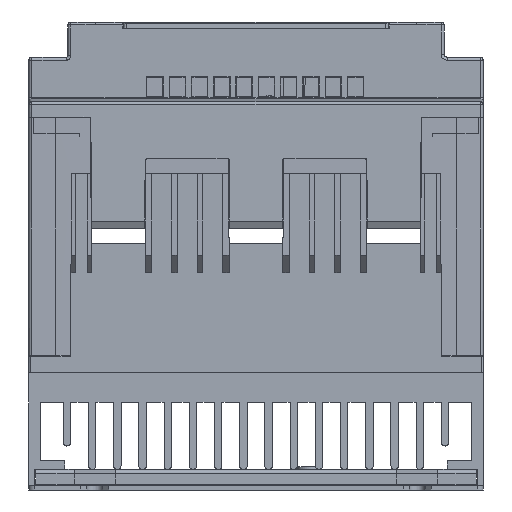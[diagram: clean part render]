
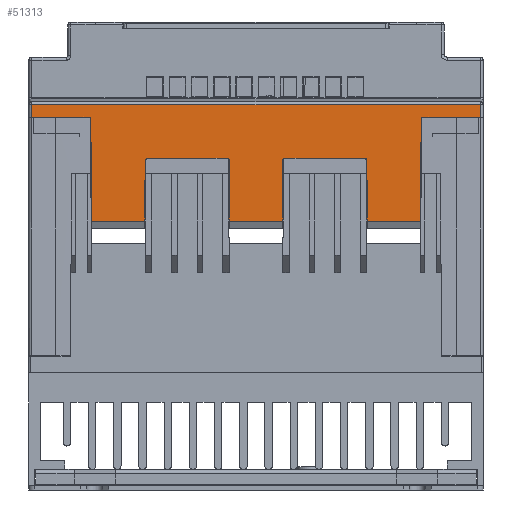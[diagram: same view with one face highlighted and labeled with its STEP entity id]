
A CAD part, front view. The second image highlights one B-rep face of the part: STEP entity #51313.
In plain terms, the highlighted planar face has unit normal (0, -1, 0.007).
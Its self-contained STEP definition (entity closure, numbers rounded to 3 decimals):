
#1725=FACE_OUTER_BOUND('',#4470,.T.);
#4470=EDGE_LOOP('',(#35972,#35973,#35974,#35975,#35976,#35977,#35978,#35979,
#35980,#35981,#35982,#35983,#35984,#35985,#35986,#35987,#35988,#35989,#35990,
#35991,#35992,#35993,#35994,#35995,#35996,#35997));
#7584=ELLIPSE('',#54462,0.5,0.5);
#7585=ELLIPSE('',#54463,0.7,0.7);
#7586=ELLIPSE('',#54464,0.7,0.7);
#7587=ELLIPSE('',#54465,0.7,0.7);
#7588=ELLIPSE('',#54466,0.7,0.7);
#7589=ELLIPSE('',#54467,0.5,0.5);
#9597=LINE('',#76469,#15493);
#9875=LINE('',#77116,#15771);
#9880=LINE('',#77127,#15776);
#9881=LINE('',#77129,#15777);
#9882=LINE('',#77131,#15778);
#9883=LINE('',#77133,#15779);
#9884=LINE('',#77135,#15780);
#9885=LINE('',#77136,#15781);
#9886=LINE('',#77140,#15782);
#9887=LINE('',#77142,#15783);
#9888=LINE('',#77144,#15784);
#9889=LINE('',#77148,#15785);
#9890=LINE('',#77152,#15786);
#9891=LINE('',#77154,#15787);
#9892=LINE('',#77156,#15788);
#9893=LINE('',#77160,#15789);
#9894=LINE('',#77164,#15790);
#9895=LINE('',#77166,#15791);
#9896=LINE('',#77168,#15792);
#9897=LINE('',#77171,#15793);
#15493=VECTOR('',#60974,10.);
#15771=VECTOR('',#61556,11.584);
#15776=VECTOR('',#61565,7.991);
#15777=VECTOR('',#61566,4.54);
#15778=VECTOR('',#61567,153.);
#15779=VECTOR('',#61568,4.54);
#15780=VECTOR('',#61569,7.991);
#15781=VECTOR('',#61570,11.584);
#15782=VECTOR('',#61573,34.576);
#15783=VECTOR('',#61574,18.225);
#15784=VECTOR('',#61575,20.719);
#15785=VECTOR('',#61578,27.297);
#15786=VECTOR('',#61581,20.719);
#15787=VECTOR('',#61582,18.122);
#15788=VECTOR('',#61583,20.719);
#15789=VECTOR('',#61586,27.297);
#15790=VECTOR('',#61589,20.719);
#15791=VECTOR('',#61590,18.225);
#15792=VECTOR('',#61591,34.576);
#15793=VECTOR('',#61594,10.);
#21448=VERTEX_POINT('',#76466);
#21449=VERTEX_POINT('',#76468);
#21665=VERTEX_POINT('',#77114);
#21666=VERTEX_POINT('',#77115);
#21670=VERTEX_POINT('',#77126);
#21671=VERTEX_POINT('',#77128);
#21672=VERTEX_POINT('',#77130);
#21673=VERTEX_POINT('',#77132);
#21674=VERTEX_POINT('',#77134);
#21675=VERTEX_POINT('',#77137);
#21676=VERTEX_POINT('',#77139);
#21677=VERTEX_POINT('',#77141);
#21678=VERTEX_POINT('',#77143);
#21679=VERTEX_POINT('',#77145);
#21680=VERTEX_POINT('',#77147);
#21681=VERTEX_POINT('',#77149);
#21682=VERTEX_POINT('',#77151);
#21683=VERTEX_POINT('',#77153);
#21684=VERTEX_POINT('',#77155);
#21685=VERTEX_POINT('',#77157);
#21686=VERTEX_POINT('',#77159);
#21687=VERTEX_POINT('',#77161);
#21688=VERTEX_POINT('',#77163);
#21689=VERTEX_POINT('',#77165);
#21690=VERTEX_POINT('',#77167);
#21691=VERTEX_POINT('',#77169);
#26708=EDGE_CURVE('',#21449,#21448,#9597,.T.);
#27034=EDGE_CURVE('',#21665,#21666,#9875,.T.);
#27040=EDGE_CURVE('',#21666,#21670,#9880,.T.);
#27041=EDGE_CURVE('',#21671,#21670,#9881,.T.);
#27042=EDGE_CURVE('',#21672,#21671,#9882,.T.);
#27043=EDGE_CURVE('',#21673,#21672,#9883,.T.);
#27044=EDGE_CURVE('',#21674,#21673,#9884,.T.);
#27045=EDGE_CURVE('',#21449,#21674,#9885,.T.);
#27046=EDGE_CURVE('',#21675,#21448,#7584,.T.);
#27047=EDGE_CURVE('',#21676,#21675,#9886,.T.);
#27048=EDGE_CURVE('',#21676,#21677,#9887,.T.);
#27049=EDGE_CURVE('',#21677,#21678,#9888,.T.);
#27050=EDGE_CURVE('',#21679,#21678,#7585,.T.);
#27051=EDGE_CURVE('',#21679,#21680,#9889,.T.);
#27052=EDGE_CURVE('',#21681,#21680,#7586,.T.);
#27053=EDGE_CURVE('',#21682,#21681,#9890,.T.);
#27054=EDGE_CURVE('',#21682,#21683,#9891,.T.);
#27055=EDGE_CURVE('',#21683,#21684,#9892,.T.);
#27056=EDGE_CURVE('',#21685,#21684,#7587,.T.);
#27057=EDGE_CURVE('',#21685,#21686,#9893,.T.);
#27058=EDGE_CURVE('',#21687,#21686,#7588,.T.);
#27059=EDGE_CURVE('',#21688,#21687,#9894,.T.);
#27060=EDGE_CURVE('',#21688,#21689,#9895,.T.);
#27061=EDGE_CURVE('',#21689,#21690,#9896,.T.);
#27062=EDGE_CURVE('',#21691,#21690,#7589,.T.);
#27063=EDGE_CURVE('',#21691,#21665,#9897,.T.);
#35972=ORIENTED_EDGE('',*,*,#27034,.T.);
#35973=ORIENTED_EDGE('',*,*,#27040,.T.);
#35974=ORIENTED_EDGE('',*,*,#27041,.F.);
#35975=ORIENTED_EDGE('',*,*,#27042,.F.);
#35976=ORIENTED_EDGE('',*,*,#27043,.F.);
#35977=ORIENTED_EDGE('',*,*,#27044,.F.);
#35978=ORIENTED_EDGE('',*,*,#27045,.F.);
#35979=ORIENTED_EDGE('',*,*,#26708,.T.);
#35980=ORIENTED_EDGE('',*,*,#27046,.F.);
#35981=ORIENTED_EDGE('',*,*,#27047,.F.);
#35982=ORIENTED_EDGE('',*,*,#27048,.T.);
#35983=ORIENTED_EDGE('',*,*,#27049,.T.);
#35984=ORIENTED_EDGE('',*,*,#27050,.F.);
#35985=ORIENTED_EDGE('',*,*,#27051,.T.);
#35986=ORIENTED_EDGE('',*,*,#27052,.F.);
#35987=ORIENTED_EDGE('',*,*,#27053,.F.);
#35988=ORIENTED_EDGE('',*,*,#27054,.T.);
#35989=ORIENTED_EDGE('',*,*,#27055,.T.);
#35990=ORIENTED_EDGE('',*,*,#27056,.F.);
#35991=ORIENTED_EDGE('',*,*,#27057,.T.);
#35992=ORIENTED_EDGE('',*,*,#27058,.F.);
#35993=ORIENTED_EDGE('',*,*,#27059,.F.);
#35994=ORIENTED_EDGE('',*,*,#27060,.T.);
#35995=ORIENTED_EDGE('',*,*,#27061,.T.);
#35996=ORIENTED_EDGE('',*,*,#27062,.F.);
#35997=ORIENTED_EDGE('',*,*,#27063,.T.);
#46481=PLANE('',#54461);
#51313=ADVANCED_FACE('',(#1725),#46481,.F.);
#54461=AXIS2_PLACEMENT_3D('',#77125,#61563,#61564);
#54462=AXIS2_PLACEMENT_3D('',#77138,#61571,#61572);
#54463=AXIS2_PLACEMENT_3D('',#77146,#61576,#61577);
#54464=AXIS2_PLACEMENT_3D('',#77150,#61579,#61580);
#54465=AXIS2_PLACEMENT_3D('',#77158,#61584,#61585);
#54466=AXIS2_PLACEMENT_3D('',#77162,#61587,#61588);
#54467=AXIS2_PLACEMENT_3D('',#77170,#61592,#61593);
#60974=DIRECTION('',(1.,0.,0.));
#61556=DIRECTION('',(1.,0.,0.));
#61563=DIRECTION('center_axis',(0.,1.,-0.007));
#61564=DIRECTION('ref_axis',(-1.,0.,0.));
#61565=DIRECTION('',(1.,0.,0.));
#61566=DIRECTION('',(0.,-0.009,-1.));
#61567=DIRECTION('',(1.,0.,0.));
#61568=DIRECTION('',(0.,0.009,1.));
#61569=DIRECTION('',(-1.,0.,0.));
#61570=DIRECTION('',(-1.,0.,0.));
#61571=DIRECTION('center_axis',(0.,-1.,0.007));
#61572=DIRECTION('ref_axis',(0.,0.007,1.));
#61573=DIRECTION('',(-0.005,0.007,1.));
#61574=DIRECTION('',(1.,0.,0.));
#61575=DIRECTION('',(0.004,0.007,1.));
#61576=DIRECTION('center_axis',(0.,-1.,0.007));
#61577=DIRECTION('ref_axis',(0.,0.007,1.));
#61578=DIRECTION('',(1.,0.,0.));
#61579=DIRECTION('center_axis',(0.,-1.,0.007));
#61580=DIRECTION('ref_axis',(0.,0.007,1.));
#61581=DIRECTION('',(-0.004,0.007,1.));
#61582=DIRECTION('',(1.,0.,0.));
#61583=DIRECTION('',(0.004,0.007,1.));
#61584=DIRECTION('center_axis',(0.,-1.,0.007));
#61585=DIRECTION('ref_axis',(0.,0.007,1.));
#61586=DIRECTION('',(1.,0.,0.));
#61587=DIRECTION('center_axis',(0.,-1.,0.007));
#61588=DIRECTION('ref_axis',(0.,-0.007,-1.));
#61589=DIRECTION('',(-0.004,0.007,1.));
#61590=DIRECTION('',(1.,0.,0.));
#61591=DIRECTION('',(0.005,0.007,1.));
#61592=DIRECTION('center_axis',(0.,-1.,0.007));
#61593=DIRECTION('ref_axis',(0.,-0.007,-1.));
#61594=DIRECTION('',(1.,0.,0.));
#76466=CARTESIAN_POINT('',(-406.825,-135.067,70.3));
#76468=CARTESIAN_POINT('',(-406.925,-135.074,70.3));
#76469=CARTESIAN_POINT('',(-350.,-135.067,70.3));
#77114=CARTESIAN_POINT('',(-293.075,-135.074,70.3));
#77115=CARTESIAN_POINT('',(-281.491,-135.077,70.3));
#77116=CARTESIAN_POINT('',(-293.075,-135.074,70.3));
#77125=CARTESIAN_POINT('Origin',(-350.,-135.174,54.962));
#77126=CARTESIAN_POINT('',(-273.5,-135.074,70.3));
#77127=CARTESIAN_POINT('',(-281.491,-135.077,70.3));
#77128=CARTESIAN_POINT('',(-273.5,-135.036,74.84));
#77129=CARTESIAN_POINT('',(-273.5,-135.036,74.84));
#77130=CARTESIAN_POINT('',(-426.5,-135.036,74.84));
#77131=CARTESIAN_POINT('',(-426.5,-135.036,74.84));
#77132=CARTESIAN_POINT('',(-426.5,-135.074,70.3));
#77133=CARTESIAN_POINT('',(-426.5,-135.074,70.3));
#77134=CARTESIAN_POINT('',(-418.509,-135.077,70.3));
#77135=CARTESIAN_POINT('',(-418.509,-135.077,70.3));
#77136=CARTESIAN_POINT('',(-406.925,-135.074,70.3));
#77137=CARTESIAN_POINT('',(-406.345,-135.072,69.659));
#77138=CARTESIAN_POINT('Origin',(-406.825,-135.071,69.8));
#77139=CARTESIAN_POINT('',(-406.164,-135.313,35.085));
#77140=CARTESIAN_POINT('',(-406.164,-135.313,35.085));
#77141=CARTESIAN_POINT('',(-387.939,-135.313,35.085));
#77142=CARTESIAN_POINT('',(-406.164,-135.313,35.085));
#77143=CARTESIAN_POINT('',(-387.848,-135.169,55.803));
#77144=CARTESIAN_POINT('',(-387.939,-135.313,35.085));
#77145=CARTESIAN_POINT('',(-387.148,-135.164,56.5));
#77146=CARTESIAN_POINT('Origin',(-387.148,-135.169,55.8));
#77147=CARTESIAN_POINT('',(-359.852,-135.164,56.5));
#77148=CARTESIAN_POINT('',(-387.148,-135.164,56.5));
#77149=CARTESIAN_POINT('',(-359.152,-135.169,55.803));
#77150=CARTESIAN_POINT('Origin',(-359.852,-135.169,55.8));
#77151=CARTESIAN_POINT('',(-359.061,-135.313,35.085));
#77152=CARTESIAN_POINT('',(-359.061,-135.313,35.085));
#77153=CARTESIAN_POINT('',(-340.939,-135.313,35.085));
#77154=CARTESIAN_POINT('',(-359.061,-135.313,35.085));
#77155=CARTESIAN_POINT('',(-340.848,-135.169,55.803));
#77156=CARTESIAN_POINT('',(-340.939,-135.313,35.085));
#77157=CARTESIAN_POINT('',(-340.148,-135.164,56.5));
#77158=CARTESIAN_POINT('Origin',(-340.148,-135.169,55.8));
#77159=CARTESIAN_POINT('',(-312.852,-135.164,56.5));
#77160=CARTESIAN_POINT('',(-340.148,-135.164,56.5));
#77161=CARTESIAN_POINT('',(-312.152,-135.169,55.803));
#77162=CARTESIAN_POINT('Origin',(-312.852,-135.169,55.8));
#77163=CARTESIAN_POINT('',(-312.061,-135.313,35.085));
#77164=CARTESIAN_POINT('',(-312.061,-135.313,35.085));
#77165=CARTESIAN_POINT('',(-293.836,-135.313,35.085));
#77166=CARTESIAN_POINT('',(-312.061,-135.313,35.085));
#77167=CARTESIAN_POINT('',(-293.655,-135.072,69.659));
#77168=CARTESIAN_POINT('',(-293.836,-135.313,35.085));
#77169=CARTESIAN_POINT('',(-293.175,-135.067,70.3));
#77170=CARTESIAN_POINT('Origin',(-293.175,-135.071,69.8));
#77171=CARTESIAN_POINT('',(-350.,-135.067,70.3));
